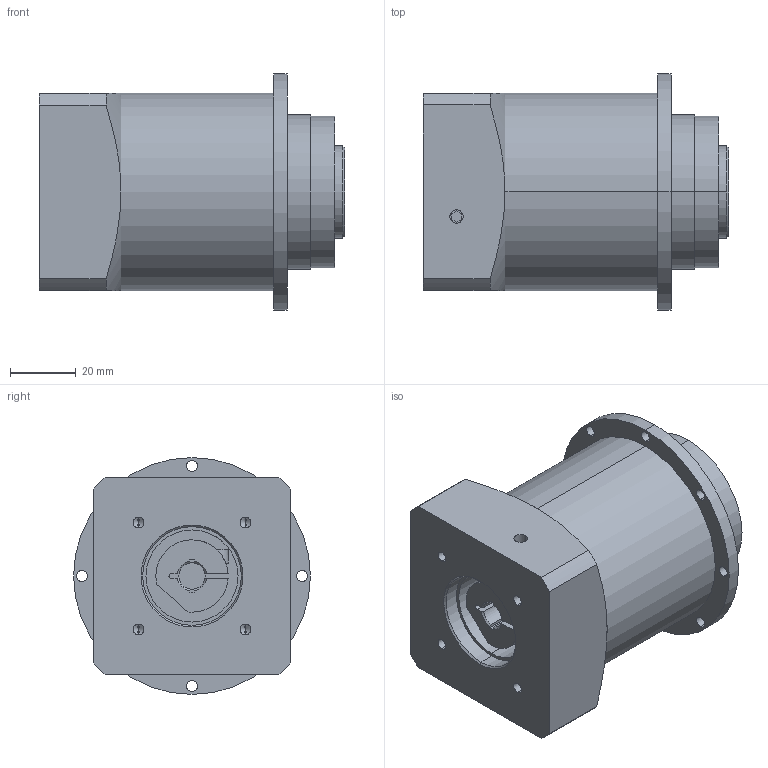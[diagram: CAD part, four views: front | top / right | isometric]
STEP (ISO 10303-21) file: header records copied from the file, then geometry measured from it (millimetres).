
FILE_DESCRIPTION (( 'STEP AP203' ), '1' );
FILE_NAME ('KPH050-1-48.STEP', '2019-08-12T10:34:49', ( 'User' ), ( 'china' ), 'SwSTEP 2.0', 'SolidWorks 2014', '' );
FILE_SCHEMA (( 'CONFIG_CONTROL_DESIGN' ));
Length unit declared in the file: millimetre
Products named in the file (1): KPH050-1-48
Bounding box: 92.8 x 72 x 72 mm (x, y, z)
Volume: 252631.4 mm3; surface area: 31378 mm2
Topology: 1 solids, 1 shells, 139 faces, 349 edges, 213 vertices
Faces by surface type: cylinder 68, plane 39, cone 32
Entity records: 4330 total; most frequent: CARTESIAN_POINT 881, DIRECTION 749, ORIENTED_EDGE 662, EDGE_CURVE 331, AXIS2_PLACEMENT_3D 297, VERTEX_POINT 213, EDGE_LOOP 176, CIRCLE 157
